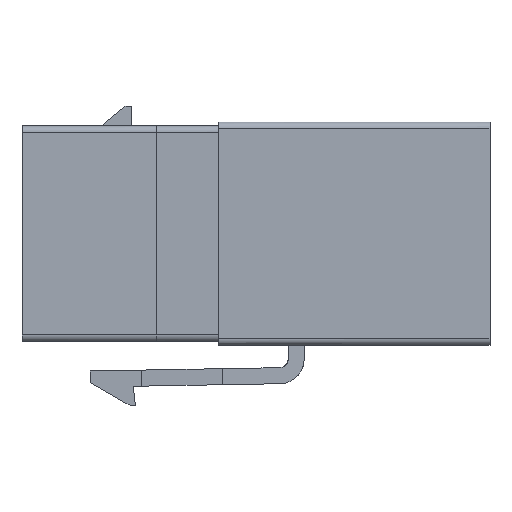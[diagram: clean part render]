
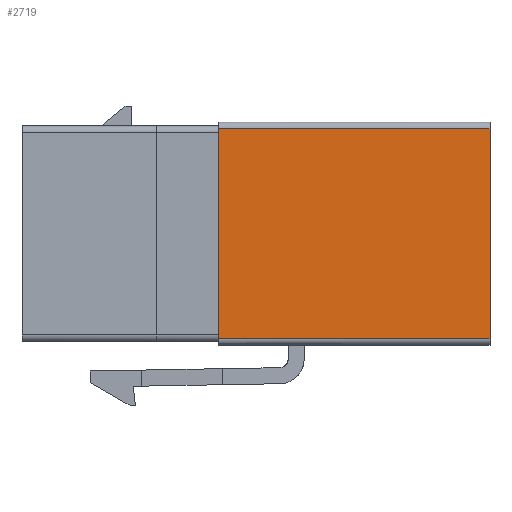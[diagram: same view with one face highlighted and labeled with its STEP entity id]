
A CAD part, front view. The second image highlights one B-rep face of the part: STEP entity #2719.
In plain terms, the highlighted free-form (B-spline) face has degree [1, 1] with [2, 2] control points.
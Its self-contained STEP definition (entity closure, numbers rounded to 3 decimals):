
#425=CARTESIAN_POINT('',(14.725,0.,-15.915));
#426=VERTEX_POINT('',#425);
#436=CARTESIAN_POINT('',(14.725,0.,-0.215));
#437=VERTEX_POINT('',#436);
#438=CARTESIAN_POINT('',(14.725,0.,-0.215));
#439=CARTESIAN_POINT('',(14.725,0.,-3.355));
#440=CARTESIAN_POINT('',(14.725,0.,-6.495));
#441=CARTESIAN_POINT('',(14.725,0.,-9.635));
#442=CARTESIAN_POINT('',(14.725,0.,-12.775));
#443=CARTESIAN_POINT('',(14.725,0.,-15.915));
#444=B_SPLINE_CURVE_WITH_KNOTS('',5,(#438,#439,#440,#441,#442,#443),.UNSPECIFIED.,.F.,.U.,(6,6),(0.,15.7),.UNSPECIFIED.);
#445=EDGE_CURVE('',#437,#426,#444,.T.);
#2657=CARTESIAN_POINT('',(35.,0.,-0.215));
#2658=VERTEX_POINT('',#2657);
#2659=CARTESIAN_POINT('',(14.725,0.,-0.215));
#2660=CARTESIAN_POINT('',(18.78,0.,-0.215));
#2661=CARTESIAN_POINT('',(22.835,0.,-0.215));
#2662=CARTESIAN_POINT('',(26.89,0.,-0.215));
#2663=CARTESIAN_POINT('',(30.945,0.,-0.215));
#2664=CARTESIAN_POINT('',(35.,0.,-0.215));
#2665=B_SPLINE_CURVE_WITH_KNOTS('',5,(#2659,#2660,#2661,#2662,#2663,#2664),.UNSPECIFIED.,.F.,.U.,(6,6),(0.,20.275),.UNSPECIFIED.);
#2666=EDGE_CURVE('',#437,#2658,#2665,.T.);
#2690=CARTESIAN_POINT('',(14.725,0.,-0.215));
#2691=CARTESIAN_POINT('',(35.,0.,-0.215));
#2692=CARTESIAN_POINT('',(14.725,0.,-15.915));
#2693=CARTESIAN_POINT('',(35.,0.,-15.915));
#2694=B_SPLINE_SURFACE_WITH_KNOTS('',1,1,((#2690,#2691),(#2692,#2693)),.PLANE_SURF.,.F.,.F.,.U.,(2,2),(2,2),(0.,1.),(0.,1.291),.UNSPECIFIED.);
#2695=CARTESIAN_POINT('',(35.,0.,-15.915));
#2696=VERTEX_POINT('',#2695);
#2697=CARTESIAN_POINT('',(35.,0.,-15.915));
#2698=CARTESIAN_POINT('',(30.945,0.,-15.915));
#2699=CARTESIAN_POINT('',(26.89,0.,-15.915));
#2700=CARTESIAN_POINT('',(22.835,0.,-15.915));
#2701=CARTESIAN_POINT('',(18.78,0.,-15.915));
#2702=CARTESIAN_POINT('',(14.725,0.,-15.915));
#2703=B_SPLINE_CURVE_WITH_KNOTS('',5,(#2697,#2698,#2699,#2700,#2701,#2702),.UNSPECIFIED.,.F.,.U.,(6,6),(0.,20.275),.UNSPECIFIED.);
#2704=EDGE_CURVE('',#2696,#426,#2703,.T.);
#2705=ORIENTED_EDGE('',*,*,#2704,.F.);
#2706=CARTESIAN_POINT('',(35.,0.,-15.915));
#2707=CARTESIAN_POINT('',(35.,0.,-12.775));
#2708=CARTESIAN_POINT('',(35.,0.,-9.635));
#2709=CARTESIAN_POINT('',(35.,0.,-6.495));
#2710=CARTESIAN_POINT('',(35.,0.,-3.355));
#2711=CARTESIAN_POINT('',(35.,0.,-0.215));
#2712=B_SPLINE_CURVE_WITH_KNOTS('',5,(#2706,#2707,#2708,#2709,#2710,#2711),.UNSPECIFIED.,.F.,.U.,(6,6),(0.,15.7),.UNSPECIFIED.);
#2713=EDGE_CURVE('',#2696,#2658,#2712,.T.);
#2714=ORIENTED_EDGE('',*,*,#2713,.T.);
#2715=ORIENTED_EDGE('',*,*,#2666,.F.);
#2716=ORIENTED_EDGE('',*,*,#445,.T.);
#2717=EDGE_LOOP('',(#2705,#2714,#2715,#2716));
#2718=FACE_OUTER_BOUND('',#2717,.T.);
#2719=ADVANCED_FACE('',(#2718),#2694,.T.);
